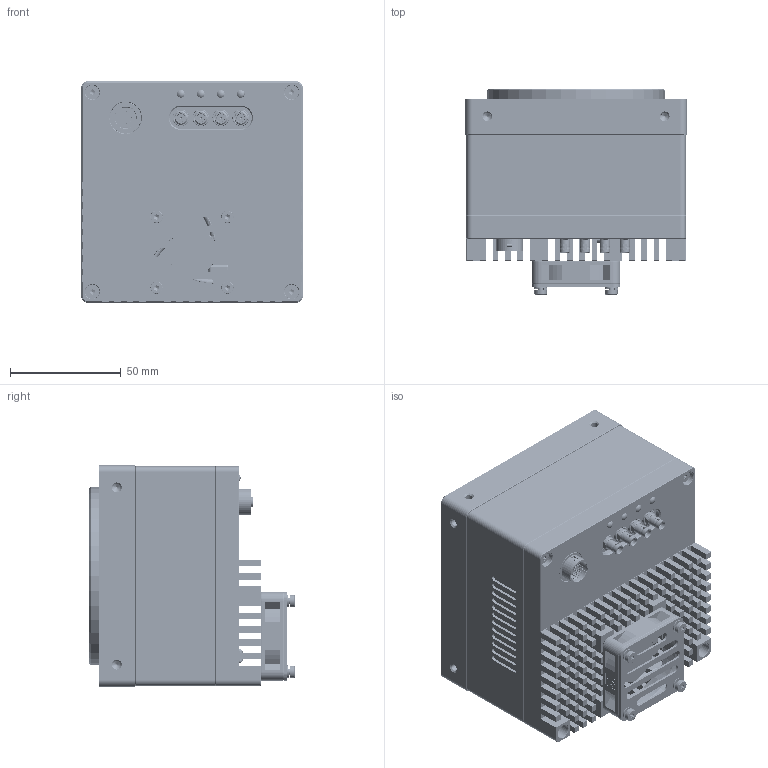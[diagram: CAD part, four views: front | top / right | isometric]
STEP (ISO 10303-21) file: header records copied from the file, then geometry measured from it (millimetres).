
FILE_DESCRIPTION((''),'2;1');
FILE_NAME('0-DH9-RDI000390-0000_ASM','2023-11-22T10:29:24',('291696'),(''),'CREO PARAMETRIC BY PTC INC, 2020184','CREO PARAMETRIC BY PTC INC, 2020184','');
FILE_SCHEMA(('CONFIG_CONTROL_DESIGN','SHAPE_APPEARANCE_LAYERS_GROUPS'));
Products named in the file (26): DH9-RDI000390-6003; 1-2-54-14-10304-000; DH9-RDI000390-6007; 1-2-54-14-10507-000; DH0-000-2324; DH9-RDI000390-V008_ASM; DH9-RDI000390-V005_ASM; DH9-RDI000390-6010; DH9-RDI000390-V009_ASM; DH9-RDI000390-6006; 1-2-17-01-10024; 1-2-08-02-10003; 1-2-08-02-10014; 1-2-17-04-10007; 1-2-17-13-0145; FX23-80P-0_5SV20; HR-PCB-0201-00-BM-KU040-00_ASM; DH3-0195-2000; DH0-000-2096; DH0-000-7170; DH3-2632-1000; T2-00012076; 1-2-54-14-10299-000; DH9-RDI000306-2001; DH9-RDI000390-V010_ASM; 0-DH9-RDI000390-0000_ASM
Assembly tree (56 placements, depth 4):
  0-DH9-RDI000390-0000_ASM
    DH9-RDI000390-V005_ASM
      DH9-RDI000390-6003
      1-2-54-14-10304-000  x4
      DH9-RDI000390-V008_ASM
        DH9-RDI000390-6007
        1-2-54-14-10507-000  x4
        DH0-000-2324  x4
    DH9-RDI000390-V009_ASM
      DH9-RDI000390-6010
    DH9-RDI000390-V010_ASM
      DH9-RDI000390-6006
      HR-PCB-0201-00-BM-KU040-00_ASM
        1-2-17-01-10024  x4
        1-2-08-02-10003  x4
        1-2-08-02-10014  x4
        1-2-17-04-10007
        1-2-17-13-0145
        FX23-80P-0_5SV20  x2
      DH3-0195-2000  x4
      DH0-000-2096  x4
      DH0-000-7170
      DH3-2632-1000
      T2-00012076  x4
      1-2-54-14-10299-000  x4
      DH9-RDI000306-2001
Bounding box: 100 x 92.65 x 100 mm (x, y, z)
Volume: 804722.8 mm3; surface area: 177035.5 mm2
Topology: 63 solids, 150 shells, 6899 faces, 18055 edges, 11762 vertices
Faces by surface type: plane 4371, cylinder 1687, cone 457, bspline 208, torus 127, sphere 32, extrusion 17
Entity records: 181758 total; most frequent: CARTESIAN_POINT 33983, ORIENTED_EDGE 22980, DIRECTION 22822, PRESENTATION_STYLE_ASSIGNMENT 11734, STYLED_ITEM 11712, CURVE_STYLE 11610, EDGE_CURVE 11610, VECTOR 8520
